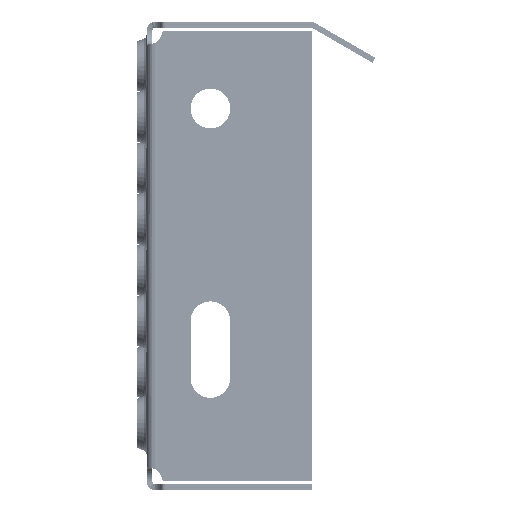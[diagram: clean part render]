
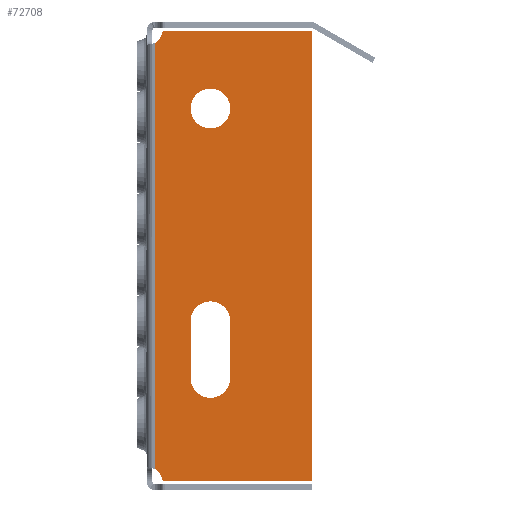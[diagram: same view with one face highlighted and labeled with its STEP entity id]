
A CAD part, left-side view. The second image highlights one B-rep face of the part: STEP entity #72708.
In plain terms, the highlighted planar face has unit normal (-1, 0, 0).
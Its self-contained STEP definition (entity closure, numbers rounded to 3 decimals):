
#217 = CARTESIAN_POINT ( 'NONE',  ( -750., -58.5, 67. ) ) ;
#1094 = PLANE ( 'NONE',  #29539 ) ;
#3713 = CARTESIAN_POINT ( 'NONE',  ( -750., -6.416, -92. ) ) ;
#4744 = EDGE_CURVE ( 'NONE', #10970, #10970, #13386, .T. ) ;
#5635 = VECTOR ( 'NONE', #26732, 1000. ) ;
#6155 = CARTESIAN_POINT ( 'NONE',  ( -750., -6.416, 66. ) ) ;
#6952 = CARTESIAN_POINT ( 'NONE',  ( -750., 0.5, -97.916 ) ) ;
#7452 = CARTESIAN_POINT ( 'NONE',  ( -750., -0.5, -92. ) ) ;
#7547 = EDGE_CURVE ( 'NONE', #74669, #38482, #59435, .T. ) ;
#8057 = EDGE_LOOP ( 'NONE', ( #49074 ) ) ;
#8637 = CARTESIAN_POINT ( 'NONE',  ( -750., -29.5, -55.5 ) ) ;
#8691 = EDGE_CURVE ( 'NONE', #25870, #74669, #42058, .T. ) ;
#9186 = EDGE_LOOP ( 'NONE', ( #32145, #66304, #37779, #34597, #62866, #62645, #23367, #14213 ) ) ;
#9251 = VECTOR ( 'NONE', #22900, 1000. ) ;
#10132 = CARTESIAN_POINT ( 'NONE',  ( -750., -6.416, -91. ) ) ;
#10167 = VERTEX_POINT ( 'NONE', #35694 ) ;
#10970 = VERTEX_POINT ( 'NONE', #42184 ) ;
#10984 = DIRECTION ( 'NONE',  ( 0., 0., 1. ) ) ;
#11069 = EDGE_CURVE ( 'NONE', #61104, #38860, #23863, .T. ) ;
#11939 = AXIS2_PLACEMENT_3D ( 'NONE', #7452, #48182, #13310 ) ;
#12035 = DIRECTION ( 'NONE',  ( 0., 0., 1. ) ) ;
#12313 = LINE ( 'NONE', #23627, #66982 ) ;
#12819 = DIRECTION ( 'NONE',  ( 0., 0., -1. ) ) ;
#13310 = DIRECTION ( 'NONE',  ( 0., 0., -1. ) ) ;
#13386 = CIRCLE ( 'NONE', #46535, 7. ) ;
#13478 = CIRCLE ( 'NONE', #53970, 7. ) ;
#13791 = DIRECTION ( 'NONE',  ( 0., 0., -1. ) ) ;
#13976 = ORIENTED_EDGE ( 'NONE', *, *, #60548, .F. ) ;
#14213 = ORIENTED_EDGE ( 'NONE', *, *, #73339, .T. ) ;
#14601 = CARTESIAN_POINT ( 'NONE',  ( -750., -3., -87.67 ) ) ;
#14979 = CARTESIAN_POINT ( 'NONE',  ( -750., -29.5, -35.5 ) ) ;
#15654 = DIRECTION ( 'NONE',  ( -1., 0., 0. ) ) ;
#15754 = CIRCLE ( 'NONE', #65884, 1. ) ;
#16003 = DIRECTION ( 'NONE',  ( 0., 0., -1. ) ) ;
#16524 = CARTESIAN_POINT ( 'NONE',  ( -750., -58.5, 67. ) ) ;
#16764 = VERTEX_POINT ( 'NONE', #8637 ) ;
#19399 = CARTESIAN_POINT ( 'NONE',  ( -750., -15.5, -35.5 ) ) ;
#20409 = DIRECTION ( 'NONE',  ( -1., 0., 0. ) ) ;
#20560 = CIRCLE ( 'NONE', #43855, 7. ) ;
#20742 = ORIENTED_EDGE ( 'NONE', *, *, #39650, .F. ) ;
#21224 = EDGE_CURVE ( 'NONE', #25019, #10167, #22083, .T. ) ;
#22083 = LINE ( 'NONE', #19399, #49363 ) ;
#22663 = VERTEX_POINT ( 'NONE', #55935 ) ;
#22900 = DIRECTION ( 'NONE',  ( 0., 1., 0. ) ) ;
#23367 = ORIENTED_EDGE ( 'NONE', *, *, #7547, .T. ) ;
#23627 = CARTESIAN_POINT ( 'NONE',  ( -750., -3., -97.916 ) ) ;
#23863 = LINE ( 'NONE', #3713, #51117 ) ;
#24251 = CARTESIAN_POINT ( 'NONE',  ( -750., -0.5, 67. ) ) ;
#25019 = VERTEX_POINT ( 'NONE', #39115 ) ;
#25659 = LINE ( 'NONE', #45873, #54768 ) ;
#25870 = VERTEX_POINT ( 'NONE', #217 ) ;
#26732 = DIRECTION ( 'NONE',  ( 0., 0., 1. ) ) ;
#28330 = ORIENTED_EDGE ( 'NONE', *, *, #21224, .F. ) ;
#28726 = CARTESIAN_POINT ( 'NONE',  ( -750., -22.5, -55.5 ) ) ;
#29539 = AXIS2_PLACEMENT_3D ( 'NONE', #6952, #70836, #12819 ) ;
#30094 = DIRECTION ( 'NONE',  ( 0., 0., -1. ) ) ;
#31024 = EDGE_CURVE ( 'NONE', #53245, #61104, #15754, .T. ) ;
#32145 = ORIENTED_EDGE ( 'NONE', *, *, #54765, .F. ) ;
#32977 = CARTESIAN_POINT ( 'NONE',  ( -750., -5.43, -91.167 ) ) ;
#34069 = AXIS2_PLACEMENT_3D ( 'NONE', #6155, #46916, #12035 ) ;
#34363 = EDGE_CURVE ( 'NONE', #44758, #25019, #13478, .T. ) ;
#34576 = DIRECTION ( 'NONE',  ( 0., 0., -1. ) ) ;
#34597 = ORIENTED_EDGE ( 'NONE', *, *, #11069, .T. ) ;
#35694 = CARTESIAN_POINT ( 'NONE',  ( -750., -15.5, -55.5 ) ) ;
#36048 = CIRCLE ( 'NONE', #44673, 5. ) ;
#36676 = LINE ( 'NONE', #14979, #5635 ) ;
#37779 = ORIENTED_EDGE ( 'NONE', *, *, #31024, .T. ) ;
#38482 = VERTEX_POINT ( 'NONE', #64510 ) ;
#38860 = VERTEX_POINT ( 'NONE', #50956 ) ;
#39115 = CARTESIAN_POINT ( 'NONE',  ( -750., -15.5, -35.5 ) ) ;
#39650 = EDGE_CURVE ( 'NONE', #10167, #16764, #20560, .T. ) ;
#40091 = CARTESIAN_POINT ( 'NONE',  ( -750., -6.416, 67. ) ) ;
#41702 = ORIENTED_EDGE ( 'NONE', *, *, #34363, .F. ) ;
#42058 = LINE ( 'NONE', #16524, #9251 ) ;
#42184 = CARTESIAN_POINT ( 'NONE',  ( -750., -22.5, 32.5 ) ) ;
#43855 = AXIS2_PLACEMENT_3D ( 'NONE', #28726, #69410, #34576 ) ;
#44463 = DIRECTION ( 'NONE',  ( 0., -1., 0. ) ) ;
#44673 = AXIS2_PLACEMENT_3D ( 'NONE', #24251, #64936, #30094 ) ;
#44758 = VERTEX_POINT ( 'NONE', #68117 ) ;
#45873 = CARTESIAN_POINT ( 'NONE',  ( -750., -58.5, -92. ) ) ;
#46535 = AXIS2_PLACEMENT_3D ( 'NONE', #55275, #20409, #61113 ) ;
#46916 = DIRECTION ( 'NONE',  ( -1., 0., 0. ) ) ;
#48182 = DIRECTION ( 'NONE',  ( 1., 0., 0. ) ) ;
#49074 = ORIENTED_EDGE ( 'NONE', *, *, #4744, .F. ) ;
#49363 = VECTOR ( 'NONE', #13791, 1000. ) ;
#50492 = CARTESIAN_POINT ( 'NONE',  ( -750., -22.5, -35.5 ) ) ;
#50699 = FACE_BOUND ( 'NONE', #8057, .T. ) ;
#50854 = DIRECTION ( 'NONE',  ( -1., 0., 0. ) ) ;
#50956 = CARTESIAN_POINT ( 'NONE',  ( -750., -58.5, -92. ) ) ;
#51117 = VECTOR ( 'NONE', #44463, 1000. ) ;
#53245 = VERTEX_POINT ( 'NONE', #32977 ) ;
#53970 = AXIS2_PLACEMENT_3D ( 'NONE', #50492, #15654, #56357 ) ;
#54375 = FACE_OUTER_BOUND ( 'NONE', #9186, .T. ) ;
#54765 = EDGE_CURVE ( 'NONE', #72905, #22663, #12313, .T. ) ;
#54768 = VECTOR ( 'NONE', #10984, 1000. ) ;
#55275 = CARTESIAN_POINT ( 'NONE',  ( -750., -22.5, 39.5 ) ) ;
#55935 = CARTESIAN_POINT ( 'NONE',  ( -750., -3., 62.67 ) ) ;
#56357 = DIRECTION ( 'NONE',  ( 0., 0., -1. ) ) ;
#57397 = EDGE_CURVE ( 'NONE', #72905, #53245, #72607, .T. ) ;
#58434 = DIRECTION ( 'NONE',  ( 0., 0., 1. ) ) ;
#59435 = CIRCLE ( 'NONE', #34069, 1. ) ;
#60548 = EDGE_CURVE ( 'NONE', #16764, #44758, #36676, .T. ) ;
#61104 = VERTEX_POINT ( 'NONE', #72156 ) ;
#61113 = DIRECTION ( 'NONE',  ( 0., 0., -1. ) ) ;
#62645 = ORIENTED_EDGE ( 'NONE', *, *, #8691, .T. ) ;
#62866 = ORIENTED_EDGE ( 'NONE', *, *, #71109, .T. ) ;
#64510 = CARTESIAN_POINT ( 'NONE',  ( -750., -5.43, 66.167 ) ) ;
#64936 = DIRECTION ( 'NONE',  ( 1., 0., 0. ) ) ;
#65884 = AXIS2_PLACEMENT_3D ( 'NONE', #10132, #50854, #16003 ) ;
#66197 = FACE_BOUND ( 'NONE', #72024, .T. ) ;
#66304 = ORIENTED_EDGE ( 'NONE', *, *, #57397, .T. ) ;
#66982 = VECTOR ( 'NONE', #58434, 1000. ) ;
#68117 = CARTESIAN_POINT ( 'NONE',  ( -750., -29.5, -35.5 ) ) ;
#69410 = DIRECTION ( 'NONE',  ( -1., 0., 0. ) ) ;
#70836 = DIRECTION ( 'NONE',  ( 1., 0., 0. ) ) ;
#71109 = EDGE_CURVE ( 'NONE', #38860, #25870, #25659, .T. ) ;
#72024 = EDGE_LOOP ( 'NONE', ( #28330, #41702, #13976, #20742 ) ) ;
#72156 = CARTESIAN_POINT ( 'NONE',  ( -750., -6.416, -92. ) ) ;
#72607 = CIRCLE ( 'NONE', #11939, 5. ) ;
#72708 = ADVANCED_FACE ( 'NONE', ( #54375, #50699, #66197 ), #1094, .F. ) ;
#72905 = VERTEX_POINT ( 'NONE', #14601 ) ;
#73339 = EDGE_CURVE ( 'NONE', #38482, #22663, #36048, .T. ) ;
#74669 = VERTEX_POINT ( 'NONE', #40091 ) ;
